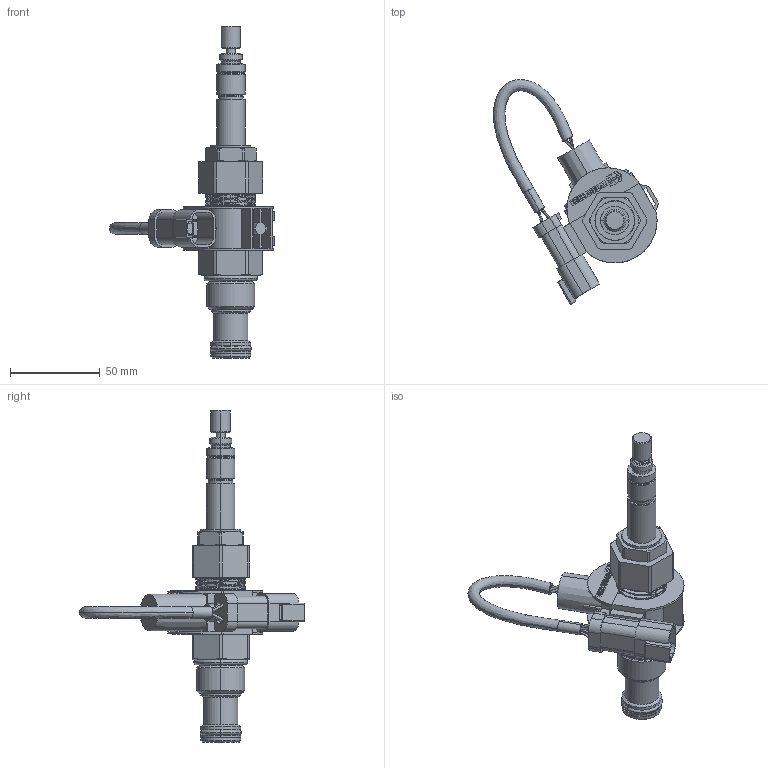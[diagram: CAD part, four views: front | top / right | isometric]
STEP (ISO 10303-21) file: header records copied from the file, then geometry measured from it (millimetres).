
FILE_DESCRIPTION((''),'2;1');
FILE_NAME('ASM0001_ASM','2021-06-24T14:47:28',('CY1'),(''),'CREO PARAMETRIC BY PTC INC, 2018020','CREO PARAMETRIC BY PTC INC, 2018020','');
FILE_SCHEMA(('CONFIG_CONTROL_DESIGN'));
Products named in the file (3): PRT0001; N_DEUTSCH_SENSOR_ASSEMBLY; ASM0001_ASM
Assembly tree (2 placements, depth 2):
  ASM0001_ASM
    PRT0001
    N_DEUTSCH_SENSOR_ASSEMBLY
Bounding box: 92.03 x 125.48 x 185.19 mm (x, y, z)
Volume: 111905.5 mm3; surface area: 46776.3 mm2
Topology: 2 solids, 3 shells, 913 faces, 2562 edges, 1653 vertices
Faces by surface type: plane 409, cylinder 256, cone 82, bspline 66, extrusion 64, torus 28, sphere 8
Entity records: 39980 total; most frequent: CARTESIAN_POINT 17573, ORIENTED_EDGE 5096, DIRECTION 3910, EDGE_CURVE 2548, VERTEX_POINT 1653, VECTOR 1434, LINE 1370, AXIS2_PLACEMENT_3D 1238
